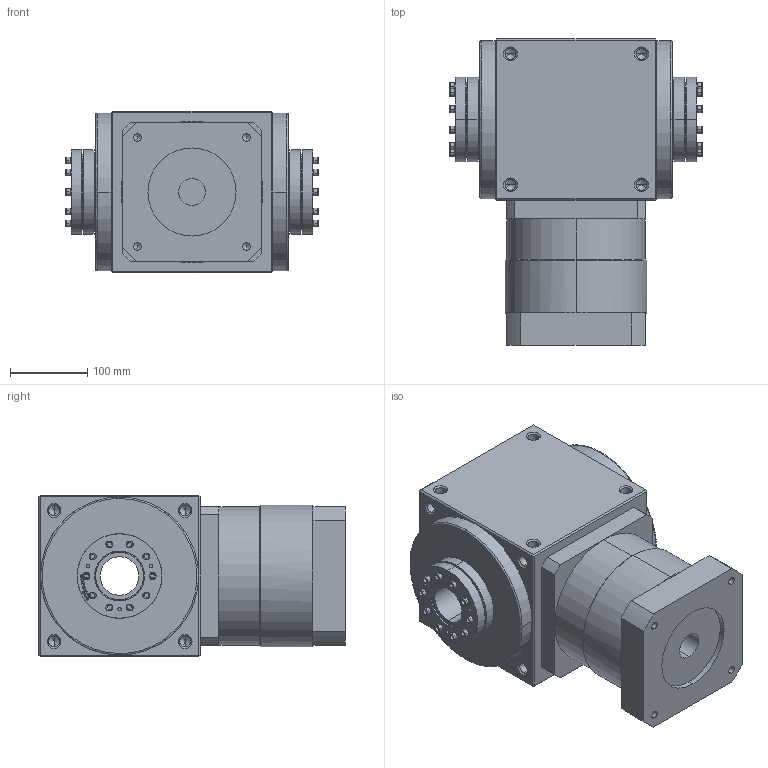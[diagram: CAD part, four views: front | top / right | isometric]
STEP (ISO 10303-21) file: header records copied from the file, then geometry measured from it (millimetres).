
FILE_DESCRIPTION (( 'STEP AP214' ), '1' );
FILE_NAME ('AT210-FC-L1--24-130-165-M10-B.STEP', '2020-11-21T02:03:54', ( '微软用户' ), ( '微软中国' ), 'SwSTEP 2.0', 'SolidWorks 2014', '' );
FILE_SCHEMA (( 'AUTOMOTIVE_DESIGN' ));
Length unit declared in the file: millimetre
Products named in the file (8): 83_62x110_4; AT210-FC-L1-24-130-165-M10_1; AT210-FC-L1--24-130-165-M10-B; AT210-FH-L1 35-114.3-200-M12
Assembly tree (4 placements, depth 2):
  83_62x110_4
  83_62x110_4
  AT210-FC-L1-24-130-165-M10_1
  AT210-FC-L1--24-130-165-M10-B
    AT210-FC-L1-24-130-165-M10_1
    83_62x110_4  x2
    AT210-FH-L1 35-114.3-200-M12
  AT210-FH-L1 35-114.3-200-M12
Bounding box: 327.2 x 398 x 210 mm (x, y, z)
Volume: 15519221.3 mm3; surface area: 704988.6 mm2
Topology: 30 solids, 30 shells, 1406 faces, 3342 edges, 2012 vertices
Faces by surface type: cylinder 618, plane 358, cone 306, bspline 76, torus 48
Entity records: 25774 total; most frequent: CARTESIAN_POINT 5940, DIRECTION 4038, ORIENTED_EDGE 3924, EDGE_CURVE 1962, AXIS2_PLACEMENT_3D 1555, VERTEX_POINT 1192, EDGE_LOOP 956, LINE 928
